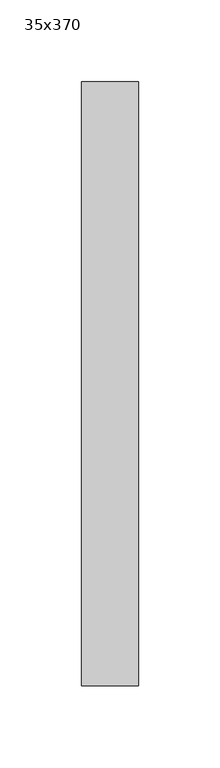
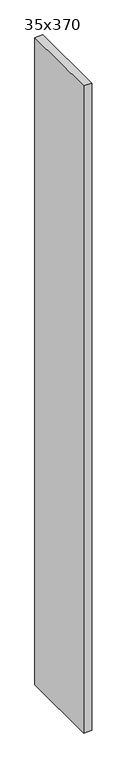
"""IFC4 building model written with IfcOpenShell, lengths in millimetres: column geometry, Poteau - Lamellé-collé - Espèces occidentales : 35x370."""

from ifc_helpers import new_model, si_unit, origin, origin_with_axes, place, context, project, spatial, polyline, outline, extrude, source, transform, mapped, element, save


def column_35x370_9cb7c830(model_context):
    return source(origin(), model_context, "Body", "SweptSolid", [
        extrude(outline(polyline([(17.5, 185.0), (17.5, -185.0), (-17.5, -185.0), (-17.5, 185.0), (17.5, 185.0)])), origin_with_axes(), (0.0, 0.0, 1.0), 3000.0),
    ])


if __name__ == "__main__":
    model = new_model("IFC4")
    model_context = context("Model", 3, world=origin())
    ifc_project = project(units=[si_unit("LENGTHUNIT", "METRE", prefix="MILLI")], contexts=[model_context])
    site = spatial("IfcSite", under=ifc_project)
    building = spatial("IfcBuilding", under=site)
    placement = place(None, origin())
    column_35x370_shape = column_35x370_9cb7c830(model_context)
    element("IfcColumn", 1, ObjectType="Poteau - Lamellé-collé - Espèces occidentales : 35x370", at=placement, inside=building, context=model_context, shape_type="MappedRepresentation", body=[
        mapped(column_35x370_shape, transform((0.0, 0.0, 0.0), x_axis=(1.0, 0.0, 0.0), y_axis=(0.0, 1.0, 0.0), z_axis=(0.0, 0.0, 1.0))),
    ])
    save(model, "model.ifc")
